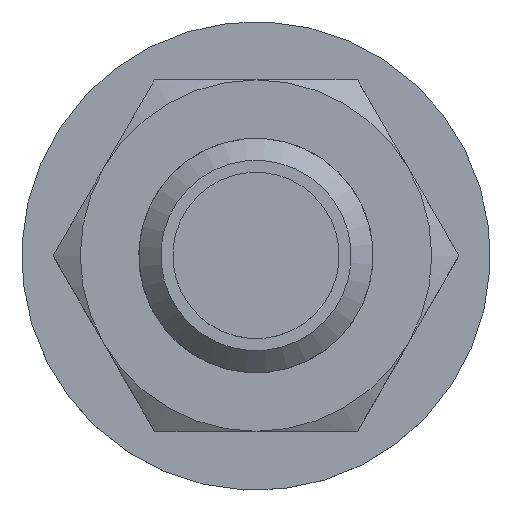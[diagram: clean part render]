
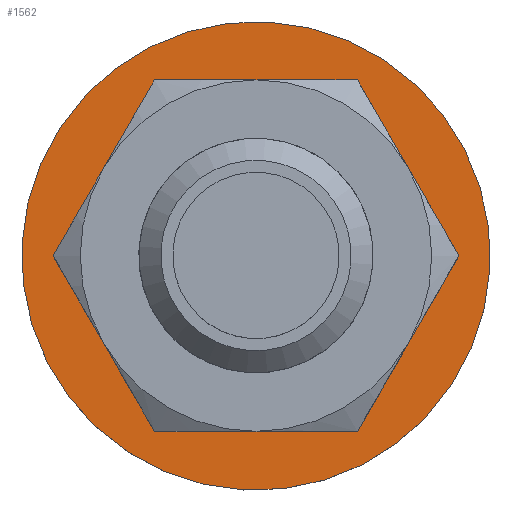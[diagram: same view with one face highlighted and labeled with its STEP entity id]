
A CAD part, top view. The second image highlights one B-rep face of the part: STEP entity #1562.
In plain terms, the highlighted planar face has unit normal (0, 0, 1).
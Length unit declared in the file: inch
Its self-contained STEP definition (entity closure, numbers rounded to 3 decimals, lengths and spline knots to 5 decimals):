
#297=FACE_BOUND('',#417,.T.);
#320=FACE_OUTER_BOUND('',#416,.T.);
#416=EDGE_LOOP('',(#976));
#417=EDGE_LOOP('',(#977,#978,#979,#980,#981,#982));
#535=CIRCLE('',#1661,1.);
#536=CIRCLE('',#1662,0.75);
#537=CIRCLE('',#1663,0.75);
#538=CIRCLE('',#1664,0.75);
#539=CIRCLE('',#1665,0.75);
#540=CIRCLE('',#1666,0.75);
#541=CIRCLE('',#1667,0.75);
#603=VERTEX_POINT('',#2192);
#604=VERTEX_POINT('',#2194);
#605=VERTEX_POINT('',#2195);
#606=VERTEX_POINT('',#2197);
#607=VERTEX_POINT('',#2199);
#608=VERTEX_POINT('',#2201);
#609=VERTEX_POINT('',#2203);
#752=EDGE_CURVE('',#603,#603,#535,.T.);
#753=EDGE_CURVE('',#604,#605,#536,.T.);
#754=EDGE_CURVE('',#605,#606,#537,.T.);
#755=EDGE_CURVE('',#606,#607,#538,.T.);
#756=EDGE_CURVE('',#607,#608,#539,.T.);
#757=EDGE_CURVE('',#608,#609,#540,.T.);
#758=EDGE_CURVE('',#609,#604,#541,.T.);
#976=ORIENTED_EDGE('',*,*,#752,.F.);
#977=ORIENTED_EDGE('',*,*,#753,.T.);
#978=ORIENTED_EDGE('',*,*,#754,.T.);
#979=ORIENTED_EDGE('',*,*,#755,.T.);
#980=ORIENTED_EDGE('',*,*,#756,.T.);
#981=ORIENTED_EDGE('',*,*,#757,.T.);
#982=ORIENTED_EDGE('',*,*,#758,.T.);
#1424=PLANE('',#1660);
#1562=ADVANCED_FACE('',(#320,#297),#1424,.F.);
#1660=AXIS2_PLACEMENT_3D('',#2191,#1814,#1815);
#1661=AXIS2_PLACEMENT_3D('',#2193,#1816,#1817);
#1662=AXIS2_PLACEMENT_3D('',#2196,#1818,#1819);
#1663=AXIS2_PLACEMENT_3D('',#2198,#1820,#1821);
#1664=AXIS2_PLACEMENT_3D('',#2200,#1822,#1823);
#1665=AXIS2_PLACEMENT_3D('',#2202,#1824,#1825);
#1666=AXIS2_PLACEMENT_3D('',#2204,#1826,#1827);
#1667=AXIS2_PLACEMENT_3D('',#2205,#1828,#1829);
#1814=DIRECTION('center_axis',(0.,0.,
-1.));
#1815=DIRECTION('ref_axis',(0.891,0.453,0.));
#1816=DIRECTION('center_axis',(0.,0.,
-1.));
#1817=DIRECTION('ref_axis',(-0.453,0.891,0.));
#1818=DIRECTION('center_axis',(0.,0.,
-1.));
#1819=DIRECTION('ref_axis',(-0.5,0.866,0.));
#1820=DIRECTION('center_axis',(0.,0.,
-1.));
#1821=DIRECTION('ref_axis',(-0.5,0.866,0.));
#1822=DIRECTION('center_axis',(0.,0.,
-1.));
#1823=DIRECTION('ref_axis',(-0.5,0.866,0.));
#1824=DIRECTION('center_axis',(0.,0.,
-1.));
#1825=DIRECTION('ref_axis',(-0.5,0.866,0.));
#1826=DIRECTION('center_axis',(0.,0.,
-1.));
#1827=DIRECTION('ref_axis',(-0.5,0.866,0.));
#1828=DIRECTION('center_axis',(0.,0.,
-1.));
#1829=DIRECTION('ref_axis',(-0.5,0.866,0.));
#2191=CARTESIAN_POINT('Origin',(0.,0.,
5.634));
#2192=CARTESIAN_POINT('',(0.45312,-0.89145,5.634));
#2193=CARTESIAN_POINT('Origin',(0.,0.,
5.634));
#2194=CARTESIAN_POINT('',(0.64952,-0.375,5.634));
#2195=CARTESIAN_POINT('',(0.,-0.75,5.634));
#2196=CARTESIAN_POINT('Origin',(0.,0.,
5.634));
#2197=CARTESIAN_POINT('',(-0.64952,-0.375,5.634));
#2198=CARTESIAN_POINT('Origin',(0.,0.,
5.634));
#2199=CARTESIAN_POINT('',(-0.64952,0.375,5.634));
#2200=CARTESIAN_POINT('Origin',(0.,0.,
5.634));
#2201=CARTESIAN_POINT('',(0.,0.75,5.634));
#2202=CARTESIAN_POINT('Origin',(0.,0.,
5.634));
#2203=CARTESIAN_POINT('',(0.64952,0.375,5.634));
#2204=CARTESIAN_POINT('Origin',(0.,0.,
5.634));
#2205=CARTESIAN_POINT('Origin',(0.,0.,
5.634));
